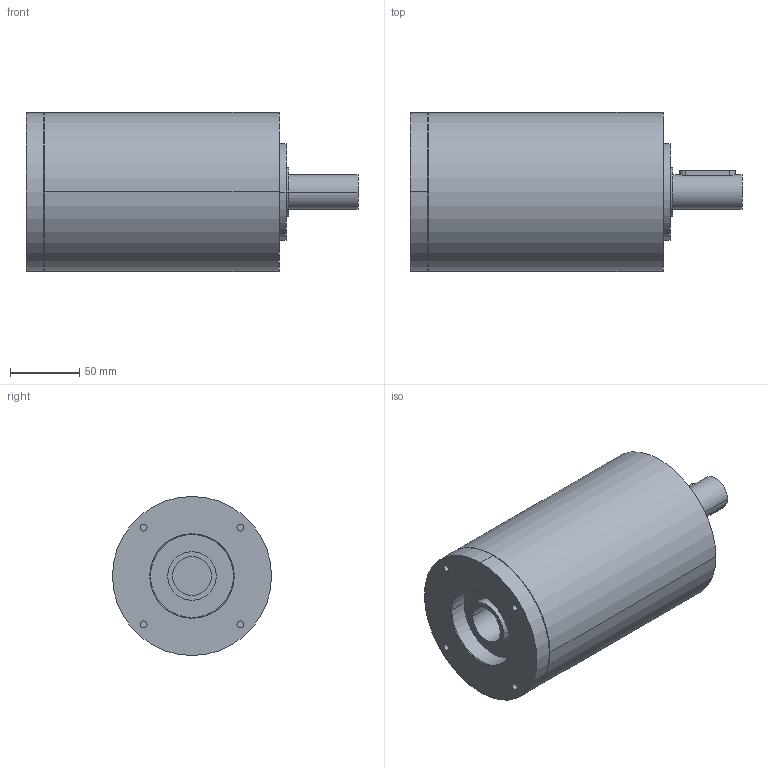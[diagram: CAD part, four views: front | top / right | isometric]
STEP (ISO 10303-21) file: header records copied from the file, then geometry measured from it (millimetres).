
FILE_DESCRIPTION(('CoCreate Modeling STEP Export'),'2;1');
FILE_NAME('GPR125_ig-9-12-16-20-28-35_25_B14_28_P20.stp','2014-08-26T14:11:46',(''),(''),'CoCreate Modeling STEP processor for AP214 (Solid Model)','CoCreate Modeling 16.00C 25-Feb-2009 (C) Parametric Technology GmbH','');
FILE_SCHEMA(('AUTOMOTIVE_DESIGN { 1 0 10303 214 1 1 1 1 }'));
Length unit declared in the file: millimetre
Products named in the file (2): GPR125_ig-9-12-16-20-28-35_25_B14_28_P20
Assembly tree (1 placements, depth 2):
  GPR125_ig-9-12-16-20-28-35_25_B14_28_P20
    GPR125_ig-9-12-16-20-28-35_25_B14_28_P20
Bounding box: 240 x 115 x 115 mm (x, y, z)
Volume: 1876754.3 mm3; surface area: 104153.1 mm2
Topology: 1 solids, 1 shells, 62 faces, 159 edges, 113 vertices
Faces by surface type: cylinder 36, plane 20, cone 6
Entity records: 1615 total; most frequent: ORIENTED_EDGE 314, CARTESIAN_POINT 308, DIRECTION 206, EDGE_CURVE 157, VERTEX_POINT 113, AXIS2_PLACEMENT_3D 79, EDGE_LOOP 78, FACE_OUTER_BOUND 62
